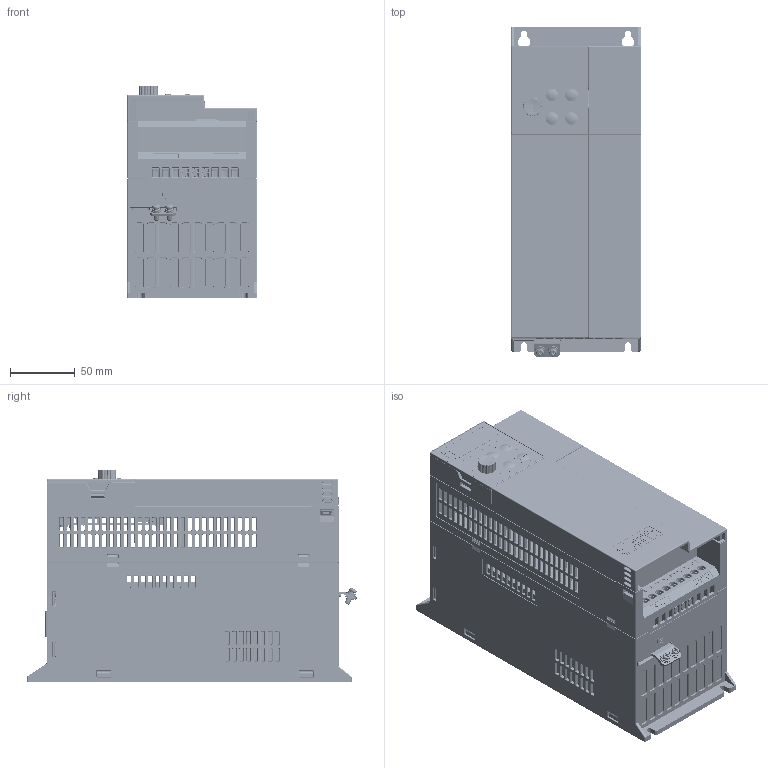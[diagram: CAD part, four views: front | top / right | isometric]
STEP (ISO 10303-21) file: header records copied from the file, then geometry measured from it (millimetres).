
FILE_DESCRIPTION((''),'2;1');
FILE_NAME('AD80-S2-DRIVE_ASM','2025-06-25T18:04:04',('wendong.luo'),(''),'CREO PARAMETRIC BY PTC INC, 2024374','CREO PARAMETRIC BY PTC INC, 2024374','');
FILE_SCHEMA(('CONFIG_CONTROL_DESIGN','GEOMETRIC_VALIDATION_PROPERTIES_MIM'));
Products named in the file (33): M0104105; M0100006; M0100005_BEND; M0202003; FAN8025; M0104108; M0104106; E0100292; E0400085; E0400084; E0400074; E0400035; E0400088; E0400086; E0400127; E0100292_ASM; M0203177; AD80-S2-FRONT-COVER-ASSY_ASM; M0104107; M0203053; AD80-S2-PU_ASM; AD80-LCP-MECHANICAL_PART; E0100294; 0805-LED; E0200191; E0200192; E0400038; E0300012; E0400011; E0100294_ASM; M0203065_00; AD80-KP00_ASM; AD80-S2-DRIVE_ASM
Assembly tree (47 placements, depth 5):
  AD80-S2-DRIVE_ASM
    AD80-S2-PU_ASM
      M0104105
      M0100006
      M0100005_BEND
      M0202003  x2
      FAN8025
      M0104108
      AD80-S2-FRONT-COVER-ASSY_ASM
        M0104106
        E0100292_ASM
          E0100292
          E0400085  x3
          E0400084  x2
          E0400074
          E0400035
          E0400088
          E0400086  x3
          E0400127
        M0203177
      M0104107
      M0203053
    AD80-KP00_ASM
      AD80-LCP-MECHANICAL_PART
      E0100294_ASM
        E0100294
        0805-LED  x6
        E0200191
        E0200192
        E0400038  x4
        E0300012
        E0400035
        E0400011
      M0203065_00
Bounding box: 100 x 254.08 x 164 mm (x, y, z)
Volume: 1792445.1 mm3; surface area: 492239.2 mm2
Topology: 58 solids, 123 shells, 18047 faces, 47313 edges, 29990 vertices
Faces by surface type: plane 8825, cylinder 4195, bspline 2269, extrusion 1166, cone 832, torus 541, sphere 219
Entity records: 798605 total; most frequent: CARTESIAN_POINT 238603, ORIENTED_EDGE 84464, DIRECTION 67801, PRESENTATION_STYLE_ASSIGNMENT 45882, STYLED_ITEM 45309, EDGE_CURVE 42382, CURVE_STYLE 36479, VERTEX_POINT 26779
